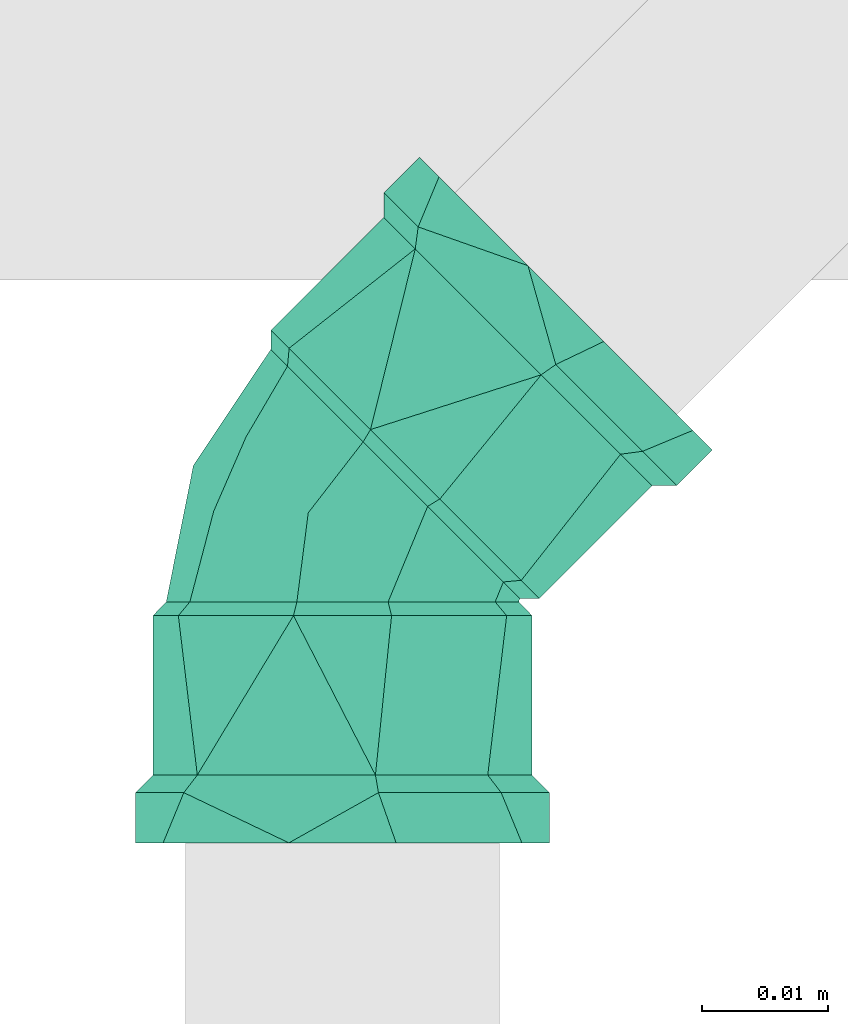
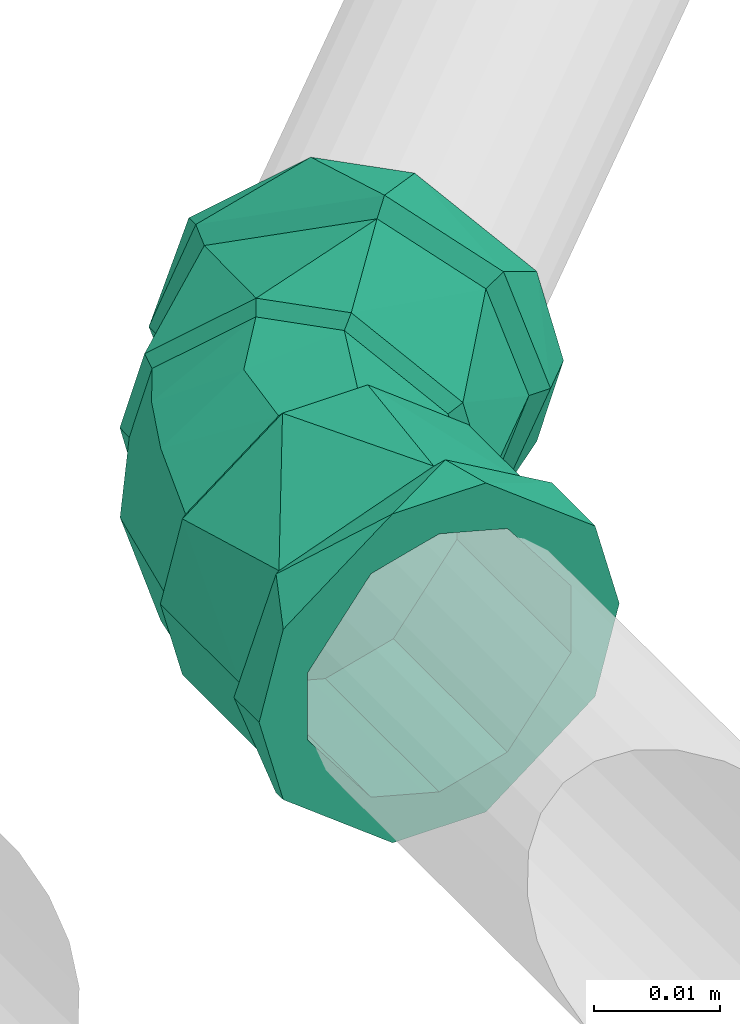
# One storey, part 322 of 589: 1 flow fitting.
"""IFC2X3 building model written with IfcOpenShell, lengths in millimetres."""

from ifc_helpers import new_model, entity, si_unit, converted_unit, derived_unit, direction, frame, origin, place, context, subcontext, project, spatial, faceted_brep, source, transform, mapped, material, type_object, type_shapes, element, save


model = new_model("IFC2X3")

# Units and contexts
model_context = context("Model", 3, precision=0.01, world=origin(), true_north=direction((6.123031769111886e-17, 1.0)))
body_context = subcontext(model_context, "Body", "Model", "MODEL_VIEW")
ifc_project = project(units=[si_unit("LENGTHUNIT", "METRE", prefix="MILLI"), si_unit("AREAUNIT", "SQUARE_METRE"), si_unit("VOLUMEUNIT", "CUBIC_METRE"), converted_unit("PLANEANGLEUNIT", "DEGREE", entity("IfcRatioMeasure", 0.017453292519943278), si_unit("PLANEANGLEUNIT", "RADIAN"), dimensions=[0, 0, 0, 0, 0, 0, 0]), si_unit("MASSUNIT", "GRAM", prefix="KILO"), derived_unit("MASSDENSITYUNIT", [(si_unit("MASSUNIT", "GRAM", prefix="KILO"), 1), (si_unit("LENGTHUNIT", "METRE"), -3)]), derived_unit("IONCONCENTRATIONUNIT", [(si_unit("MASSUNIT", "GRAM", prefix="KILO"), 1), (si_unit("LENGTHUNIT", "METRE"), -3)]), derived_unit("MOMENTOFINERTIAUNIT", [(si_unit("LENGTHUNIT", "METRE"), 4)]), si_unit("TIMEUNIT", "SECOND"), si_unit("FREQUENCYUNIT", "HERTZ"), si_unit("THERMODYNAMICTEMPERATUREUNIT", "DEGREE_CELSIUS"), derived_unit("THERMALTRANSMITTANCEUNIT", [(si_unit("MASSUNIT", "GRAM", prefix="KILO"), 1), (si_unit("THERMODYNAMICTEMPERATUREUNIT", "KELVIN"), -1), (si_unit("TIMEUNIT", "SECOND"), -3)]), derived_unit("THERMALCONDUCTANCEUNIT", [(si_unit("MASSUNIT", "GRAM", prefix="KILO"), 1), (si_unit("THERMODYNAMICTEMPERATUREUNIT", "KELVIN"), -1), (si_unit("TIMEUNIT", "SECOND"), -3), (si_unit("LENGTHUNIT", "METRE"), 1)]), derived_unit("VOLUMETRICFLOWRATEUNIT", [(si_unit("LENGTHUNIT", "METRE"), 3), (si_unit("TIMEUNIT", "SECOND"), -1)]), derived_unit("MASSFLOWRATEUNIT", [(si_unit("MASSUNIT", "GRAM", prefix="KILO"), 1), (si_unit("TIMEUNIT", "SECOND"), -1)]), derived_unit("ROTATIONALFREQUENCYUNIT", [(si_unit("TIMEUNIT", "SECOND"), -1)]), si_unit("ELECTRICCURRENTUNIT", "AMPERE"), si_unit("ELECTRICVOLTAGEUNIT", "VOLT"), si_unit("POWERUNIT", "WATT"), si_unit("FORCEUNIT", "NEWTON", prefix="KILO"), si_unit("ILLUMINANCEUNIT", "LUX"), si_unit("LUMINOUSFLUXUNIT", "LUMEN"), si_unit("LUMINOUSINTENSITYUNIT", "CANDELA"), derived_unit("USERDEFINED", [(si_unit("MASSUNIT", "GRAM", prefix="KILO"), -1), (si_unit("LENGTHUNIT", "METRE"), -2), (si_unit("TIMEUNIT", "SECOND"), 3), (si_unit("LUMINOUSFLUXUNIT", "LUMEN"), 1)]), derived_unit("USERDEFINED", [(si_unit("MASSUNIT", "GRAM", prefix="KILO"), 1), (si_unit("TIMEUNIT", "SECOND"), -3), (si_unit("LENGTHUNIT", "METRE"), 3), (si_unit("ELECTRICCURRENTUNIT", "AMPERE"), -2)]), derived_unit("SOUNDPOWERUNIT", [(si_unit("MASSUNIT", "GRAM", prefix="KILO"), 1), (si_unit("TIMEUNIT", "SECOND"), -3), (si_unit("LENGTHUNIT", "METRE"), 2)]), derived_unit("SOUNDPRESSUREUNIT", [(si_unit("MASSUNIT", "GRAM", prefix="KILO"), 1), (si_unit("LENGTHUNIT", "METRE"), -1), (si_unit("TIMEUNIT", "SECOND"), -2)]), derived_unit("LINEARVELOCITYUNIT", [(si_unit("LENGTHUNIT", "METRE"), 1), (si_unit("TIMEUNIT", "SECOND"), -1)]), si_unit("PRESSUREUNIT", "PASCAL"), derived_unit("USERDEFINED", [(si_unit("MASSUNIT", "GRAM", prefix="KILO"), 1), (si_unit("LENGTHUNIT", "METRE"), -2), (si_unit("TIMEUNIT", "SECOND"), -2)]), derived_unit("LINEARFORCEUNIT", [(si_unit("MASSUNIT", "GRAM", prefix="KILO"), 1), (si_unit("TIMEUNIT", "SECOND"), -2)]), derived_unit("PLANARFORCEUNIT", [(si_unit("MASSUNIT", "GRAM", prefix="KILO"), 1), (si_unit("LENGTHUNIT", "METRE"), -1), (si_unit("TIMEUNIT", "SECOND"), -2)]), derived_unit("SPECIFICHEATCAPACITYUNIT", [(si_unit("THERMODYNAMICTEMPERATUREUNIT", "KELVIN"), -1), (si_unit("LENGTHUNIT", "METRE"), 2), (si_unit("TIMEUNIT", "SECOND"), -2)]), derived_unit("HEATINGVALUEUNIT", [(si_unit("LENGTHUNIT", "METRE"), 2), (si_unit("TIMEUNIT", "SECOND"), -2)]), derived_unit("VAPORPERMEABILITYUNIT", [(si_unit("LENGTHUNIT", "METRE"), -1), (si_unit("TIMEUNIT", "SECOND"), 1)]), derived_unit("DYNAMICVISCOSITYUNIT", [(si_unit("MASSUNIT", "GRAM", prefix="KILO"), 1), (si_unit("TIMEUNIT", "SECOND"), -1), (si_unit("LENGTHUNIT", "METRE"), -1)]), derived_unit("THERMALEXPANSIONCOEFFICIENTUNIT", [(si_unit("THERMODYNAMICTEMPERATUREUNIT", "KELVIN"), -1)]), derived_unit("MODULUSOFELASTICITYUNIT", [(si_unit("MASSUNIT", "GRAM", prefix="KILO"), 1), (si_unit("LENGTHUNIT", "METRE"), -1), (si_unit("TIMEUNIT", "SECOND"), -2)]), derived_unit("ISOTHERMALMOISTURECAPACITYUNIT", [(si_unit("LENGTHUNIT", "METRE"), 3), (si_unit("MASSUNIT", "GRAM", prefix="KILO"), -1)]), derived_unit("MOISTUREDIFFUSIVITYUNIT", [(si_unit("TIMEUNIT", "SECOND"), -1), (si_unit("LENGTHUNIT", "METRE"), 2)])], contexts=[model_context])

# Site, building, storey
site_placement = place(None, origin())
site = spatial("IfcSite", under=ifc_project, at=site_placement, Name="Default", CompositionType="ELEMENT")
building_placement = place(site_placement, origin())
building = spatial("IfcBuilding", under=site, at=building_placement, CompositionType="ELEMENT")
storey_placement = place(building_placement, frame((0.0, 0.0, 100.0)))
storey = spatial("IfcBuildingStorey", under=building, at=storey_placement, Name="TÉRREO", CompositionType="ELEMENT", Elevation=100.0)

# Flow fitting
ifc_material = material(Name="PVC Marrom")
pipe_fitting_type = type_object("IfcPipeFittingType", Name="PVC Marrom Soldável_Joelho 45°_90°_Rodrigo MEP:Joelho", PredefinedType="NOTDEFINED", material=ifc_material)
shared_shape = source(origin(), body_context, "Body", "Brep", [
    faceted_brep([(7.758971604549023, 2.2319879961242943, 14.585479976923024), (14.24230357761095, -4.2513439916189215, 7.549999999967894), (15.67279219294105, -5.681832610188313, 0.0), (14.24230357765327, -4.251343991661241, -7.55000000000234), (7.758971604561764, 2.2319879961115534, -14.585479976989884), (2.231988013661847, 7.758971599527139, -14.585479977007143), (-4.2513439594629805, 14.242303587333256, -7.5500000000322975), (-5.681832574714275, 15.672792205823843, 0.0), (-4.251343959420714, 14.242303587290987, 7.5499999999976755), (2.23198801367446, 7.758971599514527, 14.58547997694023), (1.6481640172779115, 6.787160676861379, 13.561598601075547), (-4.380046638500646, 12.815371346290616, 7.019999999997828), (-5.710116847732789, 14.14544155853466, 0.0), (-4.380046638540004, 12.815371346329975, -7.02000000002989), (1.6481640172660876, 6.787160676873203, -13.561598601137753), (6.787160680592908, 1.648164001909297, -13.561598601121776), (12.81537133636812, -4.380046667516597, -7.020000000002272), (14.145441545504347, -5.710116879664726, 0.0), (12.815371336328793, -4.380046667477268, 7.019999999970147), (6.787160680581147, 1.6481640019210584, 13.561598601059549)], [[[0, 1, 2, 3, 4, 5, 6, 7, 8, 9]], [[10, 11, 12, 13, 14, 15, 16, 17, 18, 19]], [[3, 2, 17, 16]], [[4, 3, 16, 15]], [[15, 14, 5, 4]], [[6, 5, 14, 13]], [[7, 6, 13, 12]], [[8, 7, 12, 11]], [[9, 8, 11, 10]], [[10, 19, 0, 9]], [[1, 0, 19, 18]], [[2, 1, 18, 17]]]),
    faceted_brep([(-7.0646752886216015, 3.9081675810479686, 14.585479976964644), (-7.0646752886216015, 13.076983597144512, 7.549999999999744), (-7.0646752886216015, 15.100000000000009, 0.0), (-7.0646752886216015, 13.07698359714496, -7.549999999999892), (-7.0646752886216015, 3.908167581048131, -14.585479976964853), (-7.0646752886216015, -3.908167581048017, -14.585479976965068), (-7.0646752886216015, -13.07698359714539, -7.550000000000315), (-7.0646752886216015, -15.09999999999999, 0.0), (-7.0646752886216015, -13.076983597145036, 7.550000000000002), (-7.0646752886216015, -3.90816758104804, 14.585479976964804), (-5.964675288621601, 12.158996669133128, 7.0199999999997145), (-5.964675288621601, 3.6338193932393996, 13.561598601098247), (-5.964675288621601, -3.633819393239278, 13.561598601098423), (-5.964675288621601, -12.158996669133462, 7.0200000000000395), (-5.964675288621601, -14.040000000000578, 0.0), (-5.964675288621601, -12.15899666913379, -7.020000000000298), (-5.964675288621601, -3.6338193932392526, -13.561598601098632), (-5.964675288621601, 3.63381939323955, -13.561598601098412), (-5.964675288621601, 12.158996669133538, -7.019999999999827), (-5.964675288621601, 14.039999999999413, 0.0)], [[[0, 1, 2, 3, 4, 5, 6, 7, 8, 9]], [[10, 11, 12, 13, 14, 15, 16, 17, 18, 19]], [[3, 2, 19, 18]], [[4, 3, 18, 17]], [[17, 16, 5, 4]], [[6, 5, 16, 15]], [[7, 6, 15, 14]], [[8, 7, 14, 13]], [[9, 8, 13, 12]], [[12, 11, 0, 9]], [[1, 0, 11, 10]], [[2, 1, 10, 19]]]),
    faceted_brep([(-25.164675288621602, -4.270514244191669, -15.937776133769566), (-25.164675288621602, -6.250000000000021, -10.825317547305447), (-25.164675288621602, 0.0, -12.5), (-25.164675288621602, -14.28941916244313, -8.25000000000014), (-25.164675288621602, 4.270514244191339, -15.937776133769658), (-25.164675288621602, -12.074072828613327, -3.23523806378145), (-25.164675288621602, -16.49999999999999, 0.0), (-25.164675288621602, -12.074072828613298, 3.2352380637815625), (-25.164675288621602, -14.289419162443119, 8.249999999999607), (-25.164675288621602, -6.249999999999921, 10.825317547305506), (-25.164675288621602, -4.270514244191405, 15.937776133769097), (-25.164675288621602, 0.0, 12.5), (-25.164675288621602, 4.2705142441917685, 15.937776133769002), (-25.164675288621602, 6.2499999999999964, 10.825317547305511), (-25.164675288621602, 14.289419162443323, 8.249999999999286), (-25.164675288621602, 12.07407282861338, 3.2352380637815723), (-25.164675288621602, 16.50000000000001, 0.0), (-25.164675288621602, 12.074072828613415, -3.235238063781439), (-25.164675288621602, 14.28941916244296, -8.250000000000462), (-25.164675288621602, 6.250000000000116, -10.82531754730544), (-21.164675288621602, 16.500000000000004, 0.0), (-21.16467528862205, 12.639142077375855, 10.606700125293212), (-21.164675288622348, 2.863383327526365, 16.249647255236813), (-21.16467528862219, -12.641802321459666, 10.603529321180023), (-21.164675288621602, -16.49999999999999, 0.0), (-21.164675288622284, -4.889209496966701, 13.426588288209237), (-21.164675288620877, -12.641802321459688, -10.603529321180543), (-21.164675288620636, -2.8674593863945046, -16.24892847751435), (-21.164675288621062, 12.639142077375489, -10.606700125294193), (-21.16467528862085, 4.885841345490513, -13.427814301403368), (-19.7646752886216, -15.099999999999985, 0.0), (-19.764675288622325, -11.569164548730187, 9.703835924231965), (-19.76467528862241, -4.47436747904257, 12.287362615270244), (-19.7646752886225, 2.620429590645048, 14.870889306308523), (-19.76467528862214, 11.566730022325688, 9.706737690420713), (-19.764675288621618, 15.09999999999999, 0.0), (-19.764675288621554, 11.566730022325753, -9.706737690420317), (-19.76467528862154, 4.471285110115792, -12.28848460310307), (-19.76467528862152, -2.6241598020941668, -14.870231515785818), (-19.76467528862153, -11.56916454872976, -9.703835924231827), (-7.0646752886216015, 0.0, -12.5), (-7.0646752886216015, -6.250000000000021, -10.825317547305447), (-7.0646752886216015, -3.908167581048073, -14.585479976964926), (-7.0646752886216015, 3.9081675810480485, -14.585479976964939), (-7.0646752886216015, 6.250000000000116, -10.82531754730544), (-7.0646752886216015, -13.076983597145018, -7.549999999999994), (-7.0646752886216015, -12.074072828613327, -3.23523806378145), (-7.0646752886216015, -15.09999999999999, 0.0), (-7.0646752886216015, -12.074072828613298, 3.2352380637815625), (-7.0646752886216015, -13.076983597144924, 7.550000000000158), (-7.0646752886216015, -6.249999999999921, 10.825317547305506), (-7.0646752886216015, -3.908167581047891, 14.585479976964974), (-7.0646752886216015, 0.0, 12.5), (-7.0646752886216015, 3.9081675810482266, 14.58547997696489), (-7.0646752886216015, 6.2499999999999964, 10.825317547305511), (-7.0646752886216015, 13.076983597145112, 7.549999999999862), (-7.0646752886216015, 12.07407282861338, 3.2352380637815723), (-7.0646752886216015, 15.100000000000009, 0.0), (-7.0646752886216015, 12.074072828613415, -3.235238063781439), (-7.0646752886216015, 13.076983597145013, -7.550000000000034)], [[[0, 1, 2]], [[1, 0, 3]], [[2, 4, 0]], [[3, 5, 1]], [[3, 6, 5]], [[5, 6, 7]], [[8, 7, 6]], [[7, 8, 9]], [[10, 9, 8]], [[9, 10, 11]], [[11, 10, 12]], [[12, 13, 11]], [[14, 13, 12]], [[13, 14, 15]], [[16, 15, 14]], [[16, 17, 15]], [[18, 17, 16]], [[19, 17, 18]], [[19, 18, 4]], [[4, 2, 19]], [[16, 14, 20]], [[14, 21, 20]], [[21, 14, 12]], [[21, 12, 22]], [[23, 10, 8]], [[24, 8, 6]], [[10, 23, 25, 22]], [[23, 8, 24]], [[10, 22, 12]], [[6, 3, 24]], [[3, 26, 24]], [[26, 3, 0]], [[26, 0, 27]], [[28, 4, 18]], [[20, 18, 16]], [[4, 28, 29, 27]], [[28, 18, 20]], [[4, 27, 0]], [[30, 31, 23, 24]], [[31, 32, 33, 22, 25, 23]], [[34, 35, 20, 21]], [[34, 21, 22, 33]], [[35, 36, 28, 20]], [[36, 37, 38, 27, 29, 28]], [[39, 30, 24, 26]], [[39, 26, 27, 38]], [[40, 41, 42]], [[42, 43, 40]], [[44, 40, 43]], [[45, 42, 41]], [[41, 46, 45]], [[46, 47, 45]], [[48, 47, 46]], [[47, 48, 49]], [[50, 49, 48]], [[49, 50, 51]], [[52, 51, 50]], [[53, 51, 52]], [[52, 54, 53]], [[53, 54, 55]], [[56, 55, 54]], [[55, 56, 57]], [[56, 58, 57]], [[59, 58, 44]], [[57, 58, 59]], [[43, 59, 44]], [[35, 34, 55]], [[35, 55, 57]], [[55, 34, 53]], [[34, 33, 53]], [[51, 33, 32, 31]], [[49, 31, 30]], [[31, 49, 51]], [[49, 30, 47]], [[33, 51, 53]], [[30, 39, 45]], [[30, 45, 47]], [[45, 39, 42]], [[39, 38, 42]], [[43, 38, 37, 36]], [[59, 36, 35]], [[36, 59, 43]], [[59, 35, 57]], [[38, 43, 42]], [[9, 11, 52, 50]], [[7, 9, 50, 48]], [[48, 46, 5, 7]], [[1, 5, 46, 41]], [[2, 1, 41, 40]], [[19, 2, 40, 44]], [[17, 19, 44, 58]], [[58, 56, 15, 17]], [[13, 15, 56, 54]], [[11, 13, 54, 52]]]),
    faceted_brep([(-5.964675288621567, -3.6338193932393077, -13.561598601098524), (-5.9646752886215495, -12.158996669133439, -7.020000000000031), (-5.964675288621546, -14.03999999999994, 0.0), (-5.9646752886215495, -12.158996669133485, 7.019999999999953), (-5.964675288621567, -3.633819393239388, 13.561598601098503), (-5.964675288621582, 3.633819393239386, 13.561598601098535), (-5.9646752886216, 12.158996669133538, 7.0200000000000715), (-5.964675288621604, 14.040000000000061, 0.0), (-5.9646752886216, 12.158996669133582, -7.019999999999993), (-5.964675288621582, 3.6338193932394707, -13.561598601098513), (-5.710116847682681, 14.14544155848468, 0.0), (-4.380046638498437, 12.81537134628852, 7.0200000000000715), (1.6481640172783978, 6.7871606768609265, 13.561598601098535), (6.7871606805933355, 1.648164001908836, 13.561598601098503), (12.815371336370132, -4.380046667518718, 7.019999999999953), (14.145441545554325, -5.710116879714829, 0.0), (12.8153713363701, -4.380046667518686, -7.020000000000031), (6.787160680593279, 1.6481640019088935, -13.561598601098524), (1.648164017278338, 6.787160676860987, -13.561598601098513), (-4.38004663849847, 12.815371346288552, -7.019999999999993), (1.1303531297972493, -2.7289158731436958, 13.41567388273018), (6.369032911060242, -8.143777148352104, 8.336459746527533), (10.781820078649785, -7.95761688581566, 0.0), (4.918841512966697, -11.8751339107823, 0.0), (-1.9970133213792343, -13.250782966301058, 0.0), (0.36406105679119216, -10.505608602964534, 8.336459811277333), (-5.826909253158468, 14.067403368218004, 0.0), (6.369032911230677, -8.143777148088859, -8.336459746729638), (0.36406105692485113, -10.505608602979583, -8.336459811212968), (1.1303531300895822, -2.7289158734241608, -13.41567388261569)], [[[0, 1, 2, 3, 4, 5, 6, 7, 8, 9]], [[10, 11, 12, 13, 14, 15, 16, 17, 18, 19]], [[4, 20, 5]], [[13, 20, 21]], [[22, 15, 14]], [[22, 21, 23]], [[3, 24, 25]], [[26, 6, 11]], [[13, 21, 14]], [[26, 7, 6]], [[11, 6, 5, 12]], [[4, 3, 25]], [[23, 25, 24]], [[21, 22, 14]], [[21, 20, 25]], [[4, 25, 20]], [[26, 11, 10]], [[21, 25, 23]], [[20, 12, 5]], [[3, 2, 24]], [[13, 12, 20]], [[24, 2, 1]], [[27, 23, 28]], [[19, 18, 9, 8]], [[29, 9, 18]], [[28, 24, 1]], [[23, 24, 28]], [[0, 9, 29]], [[27, 28, 29]], [[17, 27, 29]], [[8, 7, 26]], [[26, 10, 19]], [[16, 15, 22]], [[0, 28, 1]], [[17, 16, 27]], [[22, 23, 27]], [[22, 27, 16]], [[0, 29, 28]], [[18, 17, 29]], [[19, 8, 26]]]),
    faceted_brep([(4.995479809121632, 4.99547979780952, -12.5), (0.576062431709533, 9.41489718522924, -10.825317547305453), (2.2319880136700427, 7.758971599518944, -14.585479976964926), (7.758971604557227, 2.2319879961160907, -14.585479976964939), (9.414897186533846, 0.5760624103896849, -10.82531754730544), (-4.251343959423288, 14.242303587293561, -7.549999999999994), (-3.542178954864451, 13.533138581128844, -3.23523806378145), (-5.681832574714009, 15.672792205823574, 0.0), (-3.5421789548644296, 13.533138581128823, 3.2352380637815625), (-4.251343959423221, 14.242303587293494, 7.550000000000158), (0.5760624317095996, 9.414897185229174, 10.825317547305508), (2.2319880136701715, 7.758971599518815, 14.585479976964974), (4.995479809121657, 4.9954797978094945, 12.5), (7.758971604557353, 2.231987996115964, 14.58547997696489), (9.414897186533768, 0.5760624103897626, 10.825317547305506), (14.24230357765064, -4.251343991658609, 7.549999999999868), (13.533138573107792, -3.54217898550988, 3.2352380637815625), (15.672792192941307, -5.681832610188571, 0.0), (13.533138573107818, -3.5421789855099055, -3.235238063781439), (14.242303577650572, -4.251343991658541, -7.550000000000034), (24.65304832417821, 3.298423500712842, 0.0), (22.154649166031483, 5.796822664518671, 9.706737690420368), (17.137411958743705, 10.814059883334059, 12.288484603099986), (12.120174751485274, 15.831297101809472, 14.870231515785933), (5.795101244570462, 22.156370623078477, 9.703835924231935), (3.2984235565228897, 24.653048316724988, 0.0), (5.795101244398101, 22.156370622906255, -9.703835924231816), (10.8118803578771, 17.139591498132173, -12.287362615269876), (15.828659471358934, 12.122812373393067, -14.870889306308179), (22.154649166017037, 5.796822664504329, -9.706737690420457), (6.028462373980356, 23.902908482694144, 10.606700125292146), (3.2984235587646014, 26.632947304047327, 0.0), (12.940967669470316, 16.990403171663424, 16.249647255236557), (23.904789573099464, 6.026581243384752, 10.603529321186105), (18.42287862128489, 11.508492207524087, 13.426588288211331), (26.632947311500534, 3.2984234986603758, 0.0), (23.904789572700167, 6.026581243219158, -10.603529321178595), (16.9932854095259, 12.938085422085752, -16.248928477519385), (6.028462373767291, 23.902908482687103, -10.60670012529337), (11.510873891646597, 18.420496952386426, -13.427814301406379), (14.774402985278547, 20.813822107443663, -15.937776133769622), (13.374695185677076, 22.213529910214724, -10.825317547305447), (17.79411256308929, 17.794112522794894, -12.5), (7.689967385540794, 27.898257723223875, -8.249999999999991), (20.81382214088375, 14.774402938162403, -15.937776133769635), (9.256453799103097, 26.33177130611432, -3.23523806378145), (6.1268506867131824, 29.46137442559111, 0.0), (9.256453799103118, 26.331771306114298, 3.2352380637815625), (7.689967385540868, 27.8982577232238, 8.250000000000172), (13.374695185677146, 22.213529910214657, 10.825317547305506), (14.774402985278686, 20.813822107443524, 15.937776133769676), (17.794112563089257, 17.794112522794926, 12.5), (20.81382214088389, 14.774402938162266, 15.937776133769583), (22.213529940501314, 13.374695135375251, 10.825317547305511), (27.89825774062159, 7.689967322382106, 8.24999999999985), (26.331771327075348, 9.256453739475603, 3.2352380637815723), (29.461374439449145, 6.126850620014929, 0.0), (26.331771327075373, 9.256453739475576, -3.235238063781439), (27.898257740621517, 7.68996732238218, -8.250000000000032), (22.213529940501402, 13.374695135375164, -10.82531754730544)], [[[0, 1, 2]], [[2, 3, 0]], [[4, 0, 3]], [[5, 2, 1]], [[1, 6, 5]], [[6, 7, 5]], [[8, 7, 6]], [[7, 8, 9]], [[10, 9, 8]], [[9, 10, 11]], [[12, 11, 10]], [[13, 11, 12]], [[12, 14, 13]], [[13, 14, 15]], [[16, 15, 14]], [[15, 16, 17]], [[16, 18, 17]], [[19, 18, 4]], [[17, 18, 19]], [[3, 19, 4]], [[20, 21, 15]], [[20, 15, 17]], [[15, 21, 13]], [[13, 21, 22, 23]], [[11, 23, 24]], [[9, 24, 25]], [[24, 9, 11]], [[9, 25, 7]], [[23, 11, 13]], [[25, 26, 5]], [[25, 5, 7]], [[5, 26, 2]], [[2, 26, 27, 28]], [[3, 28, 29]], [[19, 29, 20]], [[29, 19, 3]], [[19, 20, 17]], [[28, 3, 2]], [[24, 23, 30]], [[25, 24, 31]], [[31, 24, 30]], [[23, 32, 30]], [[21, 20, 33]], [[21, 33, 34]], [[22, 32, 23]], [[35, 33, 20]], [[32, 22, 34]], [[22, 21, 34]], [[20, 29, 36]], [[36, 35, 20]], [[37, 36, 29]], [[38, 39, 27]], [[29, 28, 37]], [[26, 25, 31]], [[38, 27, 26]], [[38, 26, 31]], [[28, 39, 37]], [[39, 28, 27]], [[40, 41, 42]], [[41, 40, 43]], [[42, 44, 40]], [[43, 45, 41]], [[43, 46, 45]], [[45, 46, 47]], [[48, 47, 46]], [[47, 48, 49]], [[50, 49, 48]], [[49, 50, 51]], [[51, 50, 52]], [[52, 53, 51]], [[54, 53, 52]], [[53, 54, 55]], [[56, 55, 54]], [[56, 57, 55]], [[58, 57, 56]], [[59, 57, 58]], [[59, 58, 44]], [[44, 42, 59]], [[56, 54, 35]], [[54, 33, 35]], [[33, 54, 52]], [[52, 32, 34, 33]], [[30, 50, 48]], [[31, 48, 46]], [[50, 30, 32]], [[30, 48, 31]], [[50, 32, 52]], [[46, 43, 31]], [[43, 38, 31]], [[38, 43, 40]], [[40, 37, 39, 38]], [[36, 44, 58]], [[35, 58, 56]], [[44, 36, 37]], [[36, 58, 35]], [[44, 37, 40]], [[49, 51, 12, 10]], [[47, 49, 10, 8]], [[8, 6, 45, 47]], [[41, 45, 6, 1]], [[42, 41, 1, 0]], [[59, 42, 0, 4]], [[57, 59, 4, 18]], [[18, 16, 55, 57]], [[53, 55, 16, 14]], [[51, 53, 14, 12]]]),
])
type_shapes(pipe_fitting_type, [shared_shape])
flow_fitting_placement = place(storey_placement, frame((-210.78355928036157, -7736.275174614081, -37.35660140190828), z_axis=(1.1781585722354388e-06, -1.1781585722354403e-06, 1.0), x_axis=(-0.707106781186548, -0.7071067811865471, 0.0)))
element("IfcFlowFitting", 1, at=flow_fitting_placement, inside=storey, type_object=pipe_fitting_type, material=ifc_material, Name="PVC Marrom Soldável_Joelho 45°_90°_Rodrigo MEP:Joelho", ObjectType="PVC Marrom Soldável_Joelho 45°_90°_Rodrigo MEP:Joelho", context=body_context, shape_type="MappedRepresentation", body=[
    mapped(shared_shape, transform((0.0, 0.0, 0.0), scale=1.0)),
])

save(model, "model.ifc")
